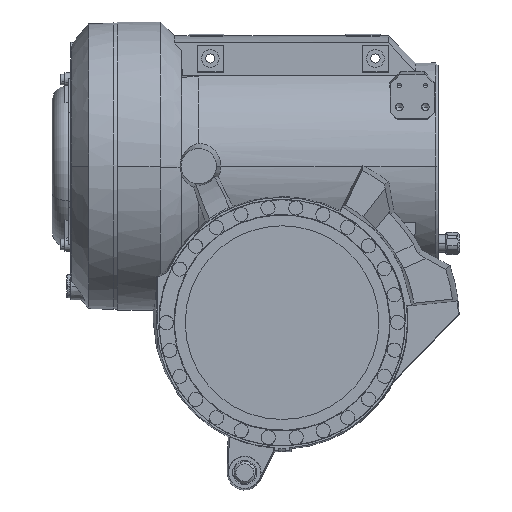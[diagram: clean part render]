
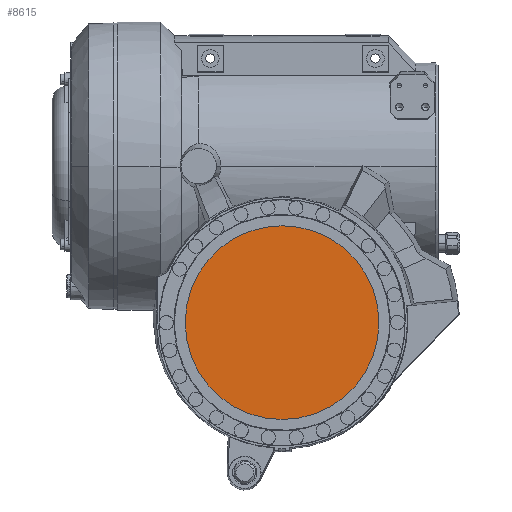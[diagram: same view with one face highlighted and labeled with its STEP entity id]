
A CAD part, front view. The second image highlights one B-rep face of the part: STEP entity #8615.
In plain terms, the highlighted planar face has unit normal (0, -1, 0).
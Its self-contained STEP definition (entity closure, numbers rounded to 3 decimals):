
#456 = DIRECTION ( 'NONE',  ( 0., -1., 0. ) ) ;
#991 = AXIS2_PLACEMENT_3D ( 'NONE', #14548, #8143, #2253 ) ;
#2215 = VERTEX_POINT ( 'NONE', #21471 ) ;
#2253 = DIRECTION ( 'NONE',  ( 0.993, 0., -0.119 ) ) ;
#2255 = ORIENTED_EDGE ( 'NONE', *, *, #7212, .T. ) ;
#7212 = EDGE_CURVE ( 'NONE', #38110, #2215, #9817, .T. ) ;
#8143 = DIRECTION ( 'NONE',  ( 0., -1., 0. ) ) ;
#8615 = ADVANCED_FACE ( 'NONE', ( #31752 ), #14277, .T. ) ;
#9817 = CIRCLE ( 'NONE', #38685, 111.5 ) ;
#9858 = CARTESIAN_POINT ( 'NONE',  ( 280., -225., 1620. ) ) ;
#13411 = DIRECTION ( 'NONE',  ( 0., -1., 0. ) ) ;
#14277 = PLANE ( 'NONE',  #991 ) ;
#14548 = CARTESIAN_POINT ( 'NONE',  ( 280., -225., 1620. ) ) ;
#21458 = CIRCLE ( 'NONE', #21708, 111.5 ) ;
#21471 = CARTESIAN_POINT ( 'NONE',  ( 168.5, -225., 1620. ) ) ;
#21708 = AXIS2_PLACEMENT_3D ( 'NONE', #34622, #13411, #25705 ) ;
#22170 = EDGE_LOOP ( 'NONE', ( #2255, #26472 ) ) ;
#22174 = DIRECTION ( 'NONE',  ( 1., 0., 0. ) ) ;
#24426 = EDGE_CURVE ( 'NONE', #2215, #38110, #21458, .T. ) ;
#25705 = DIRECTION ( 'NONE',  ( 1., 0., 0. ) ) ;
#26472 = ORIENTED_EDGE ( 'NONE', *, *, #24426, .T. ) ;
#29827 = CARTESIAN_POINT ( 'NONE',  ( 391.5, -225., 1620. ) ) ;
#31752 = FACE_OUTER_BOUND ( 'NONE', #22170, .T. ) ;
#34622 = CARTESIAN_POINT ( 'NONE',  ( 280., -225., 1620. ) ) ;
#38110 = VERTEX_POINT ( 'NONE', #29827 ) ;
#38685 = AXIS2_PLACEMENT_3D ( 'NONE', #9858, #456, #22174 ) ;
